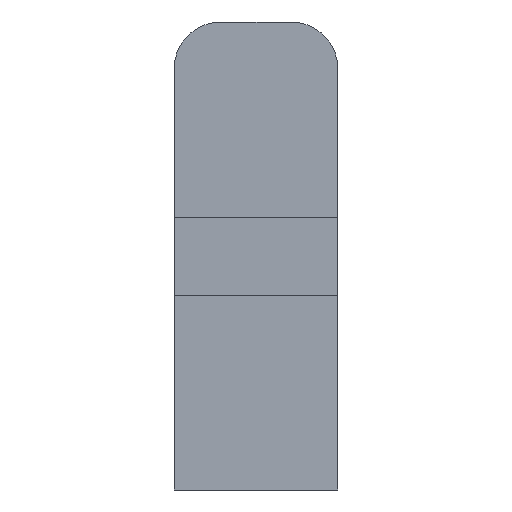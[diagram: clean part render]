
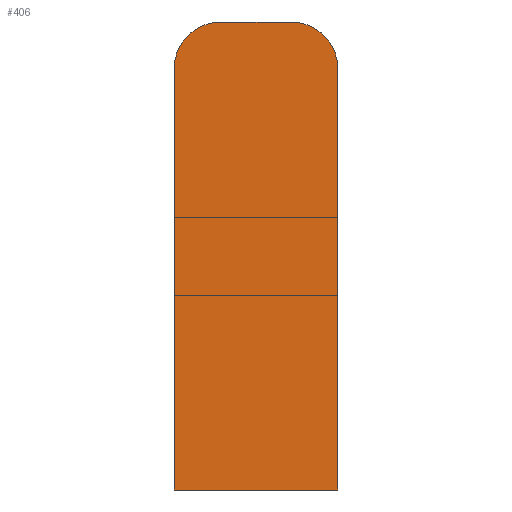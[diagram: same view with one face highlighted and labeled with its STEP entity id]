
A CAD part, front view. The second image highlights one B-rep face of the part: STEP entity #406.
In plain terms, the highlighted planar face has unit normal (0, -1, 0).
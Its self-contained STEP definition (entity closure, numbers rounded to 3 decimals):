
#6 = AXIS2_PLACEMENT_3D ( 'NONE', #62, #126, #127 ) ;
#8 = EDGE_CURVE ( 'NONE', #68, #77, #307, .T. ) ;
#14 = EDGE_CURVE ( 'NONE', #67, #72, #325, .T. ) ;
#15 = AXIS2_PLACEMENT_3D ( 'NONE', #119, #109, #61 ) ;
#23 = AXIS2_PLACEMENT_3D ( 'NONE', #194, #203, #204 ) ;
#33 = EDGE_CURVE ( 'NONE', #85, #68, #338, .T. ) ;
#39 = EDGE_CURVE ( 'NONE', #72, #85, #317, .T. ) ;
#50 = EDGE_CURVE ( 'NONE', #69, #67, #347, .T. ) ;
#55 = EDGE_CURVE ( 'NONE', #77, #69, #342, .T. ) ;
#61 = DIRECTION ( 'NONE',  ( -1., 0., 0. ) ) ;
#62 = CARTESIAN_POINT ( 'NONE',  ( -2.25, 0., 10.5 ) ) ;
#65 = ORIENTED_EDGE ( 'NONE', *, *, #55, .T. ) ;
#67 = VERTEX_POINT ( 'NONE', #152 ) ;
#68 = VERTEX_POINT ( 'NONE', #156 ) ;
#69 = VERTEX_POINT ( 'NONE', #157 ) ;
#72 = VERTEX_POINT ( 'NONE', #159 ) ;
#77 = VERTEX_POINT ( 'NONE', #162 ) ;
#85 = VERTEX_POINT ( 'NONE', #170 ) ;
#94 = CARTESIAN_POINT ( 'NONE',  ( -5.25, 0., -16.5 ) ) ;
#97 = DIRECTION ( 'NONE',  ( 0., 0., -1. ) ) ;
#109 = DIRECTION ( 'NONE',  ( 0., -1., 0. ) ) ;
#119 = CARTESIAN_POINT ( 'NONE',  ( 2.25, 0., 10.5 ) ) ;
#126 = DIRECTION ( 'NONE',  ( 0., -1., 0. ) ) ;
#127 = DIRECTION ( 'NONE',  ( -1., 0., 0. ) ) ;
#128 = CARTESIAN_POINT ( 'NONE',  ( 2.25, 0., 13.5 ) ) ;
#129 = DIRECTION ( 'NONE',  ( -1., 0., 0. ) ) ;
#141 = CARTESIAN_POINT ( 'NONE',  ( 5.25, 0., -16.5 ) ) ;
#142 = DIRECTION ( 'NONE',  ( 0., 0., 1. ) ) ;
#149 = CARTESIAN_POINT ( 'NONE',  ( 5.25, 0., -16.5 ) ) ;
#152 = CARTESIAN_POINT ( 'NONE',  ( 5.25, 0., 10.5 ) ) ;
#154 = DIRECTION ( 'NONE',  ( 1., 0., 0. ) ) ;
#156 = CARTESIAN_POINT ( 'NONE',  ( -5.25, 0., 10.5 ) ) ;
#157 = CARTESIAN_POINT ( 'NONE',  ( 5.25, 0., -16.5 ) ) ;
#159 = CARTESIAN_POINT ( 'NONE',  ( 2.25, 0., 13.5 ) ) ;
#162 = CARTESIAN_POINT ( 'NONE',  ( -5.25, 0., -16.5 ) ) ;
#170 = CARTESIAN_POINT ( 'NONE',  ( -2.25, 0., 13.5 ) ) ;
#190 = PLANE ( 'NONE',  #23 ) ;
#194 = CARTESIAN_POINT ( 'NONE',  ( 0., 0., -1.5 ) ) ;
#203 = DIRECTION ( 'NONE',  ( 0., 1., 0. ) ) ;
#204 = DIRECTION ( 'NONE',  ( -1., 0., 0. ) ) ;
#246 = ORIENTED_EDGE ( 'NONE', *, *, #8, .T. ) ;
#247 = ORIENTED_EDGE ( 'NONE', *, *, #33, .T. ) ;
#248 = ORIENTED_EDGE ( 'NONE', *, *, #14, .T. ) ;
#249 = ORIENTED_EDGE ( 'NONE', *, *, #39, .T. ) ;
#290 = EDGE_LOOP ( 'NONE', ( #396, #248, #249, #247, #246, #65 ) ) ;
#307 = LINE ( 'NONE', #94, #313 ) ;
#313 = VECTOR ( 'NONE', #97, 1000. ) ;
#317 = LINE ( 'NONE', #128, #322 ) ;
#322 = VECTOR ( 'NONE', #129, 1000. ) ;
#325 = CIRCLE ( 'NONE', #15, 3. ) ;
#338 = CIRCLE ( 'NONE', #6, 3. ) ;
#342 = LINE ( 'NONE', #149, #357 ) ;
#347 = LINE ( 'NONE', #141, #348 ) ;
#348 = VECTOR ( 'NONE', #142, 1000. ) ;
#357 = VECTOR ( 'NONE', #154, 1000. ) ;
#370 = FACE_OUTER_BOUND ( 'NONE', #290, .T. ) ;
#396 = ORIENTED_EDGE ( 'NONE', *, *, #50, .T. ) ;
#406 = ADVANCED_FACE ( 'NONE', ( #370 ), #190, .F. ) ;
